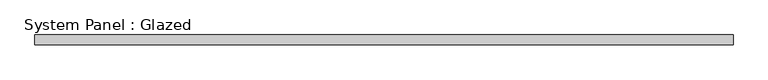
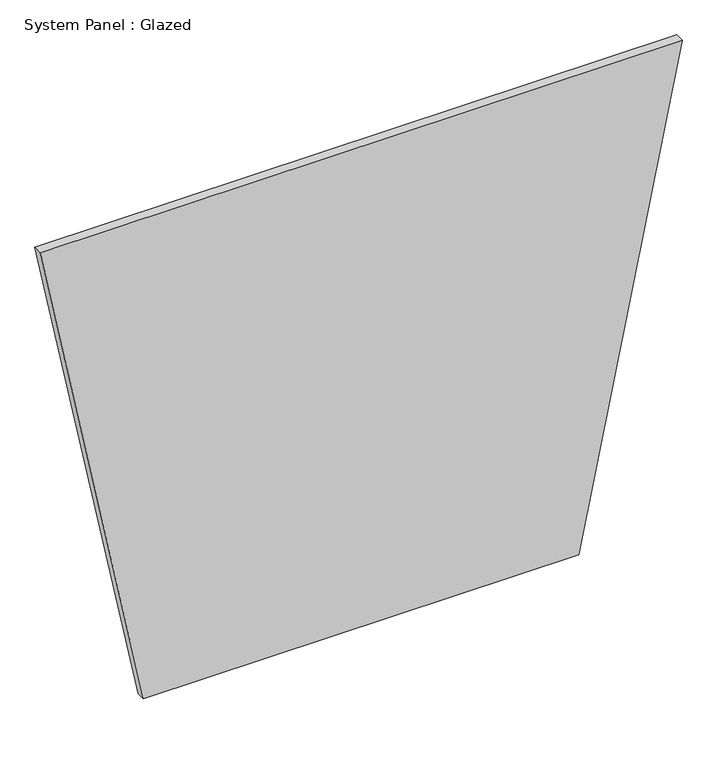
"""IFC4 building model written with IfcOpenShell, lengths in millimetres: plate geometry, System Panel : Glazed."""

from ifc_helpers import new_model, si_unit, frame, origin, place, context, project, spatial, polyline, outline, extrude, source, transform, mapped, element, save


def system_panel_glazed_4b6f7700(model_context):
    return source(origin(), model_context, "Body", "SweptSolid", [
        extrude(outline(polyline([(0.0, -612.5780916), (0.0, 612.5780916), (1429.8788447, 903.6196132), (1429.8788447, -903.6196132), (0.0, -612.5780916)])), frame((0.0, -44.45, 0.0), z_axis=(0.0, 1.0, 0.0), x_axis=(0.0, 0.0, 1.0)), (0.0, 0.0, 1.0), 25.4),
    ])


if __name__ == "__main__":
    model = new_model("IFC4")
    model_context = context("Model", 3, world=origin())
    ifc_project = project(units=[si_unit("LENGTHUNIT", "METRE", prefix="MILLI")], contexts=[model_context])
    site = spatial("IfcSite", under=ifc_project)
    building = spatial("IfcBuilding", under=site)
    placement = place(None, origin())
    system_panel_glazed_shape = system_panel_glazed_4b6f7700(model_context)
    element("IfcPlate", 1, ObjectType="System Panel : Glazed", at=placement, inside=building, context=model_context, shape_type="MappedRepresentation", body=[
        mapped(system_panel_glazed_shape, transform((0.0, 0.0, 0.0), x_axis=(1.0, 0.0, 0.0), y_axis=(0.0, 1.0, 0.0), z_axis=(0.0, 0.0, 1.0))),
    ])
    save(model, "model.ifc")
